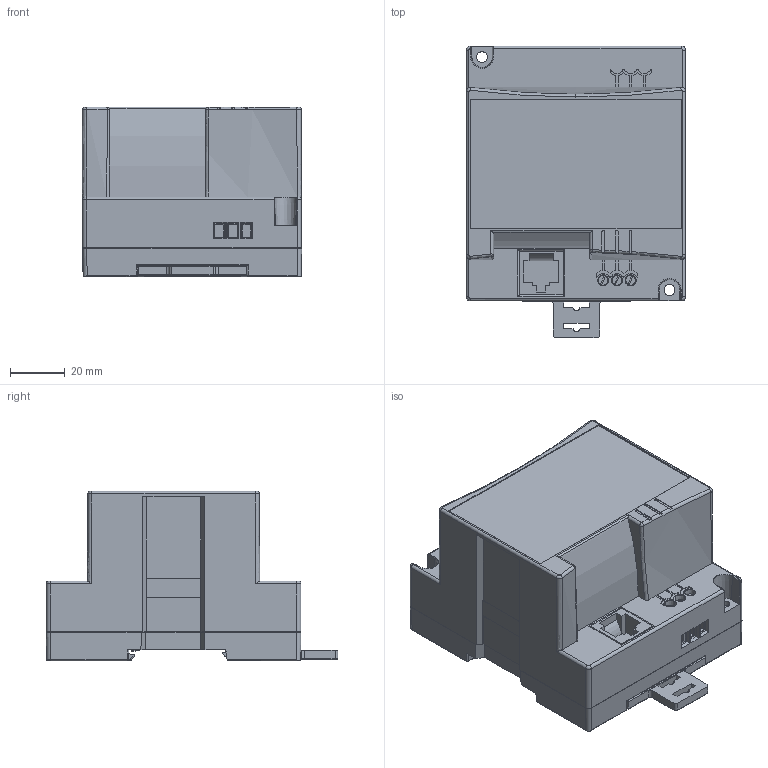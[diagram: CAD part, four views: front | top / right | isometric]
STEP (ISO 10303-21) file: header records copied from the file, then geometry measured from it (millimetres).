
FILE_DESCRIPTION (( 'STEP AP203' ), '1' );
FILE_NAME ('EX-Adapter.STEP', '2011-12-14T11:08:27', ( 'unitronics' ), ( 'unitronics' ), 'SwSTEP 2.0', 'SolidWorks 2011', '' );
FILE_SCHEMA (( 'CONFIG_CONTROL_DESIGN' ));
Length unit declared in the file: millimetre
Products named in the file (2): EX-Adapter; Part3^EXP-ALL-1
Assembly tree (1 placements, depth 2):
  EX-Adapter
    Part3^EXP-ALL-1
Bounding box: 80.14 x 106.47 x 61.92 mm (x, y, z)
Volume: 334649.2 mm3; surface area: 59168 mm2
Topology: 2 solids, 18 shells, 1184 faces, 3172 edges, 2043 vertices
Faces by surface type: plane 801, cylinder 267, bspline 61, torus 24, sphere 16, cone 15
Entity records: 39357 total; most frequent: CARTESIAN_POINT 10322, ORIENTED_EDGE 6320, DIRECTION 5492, EDGE_CURVE 3160, VECTOR 2394, LINE 2394, VERTEX_POINT 2043, AXIS2_PLACEMENT_3D 1549
